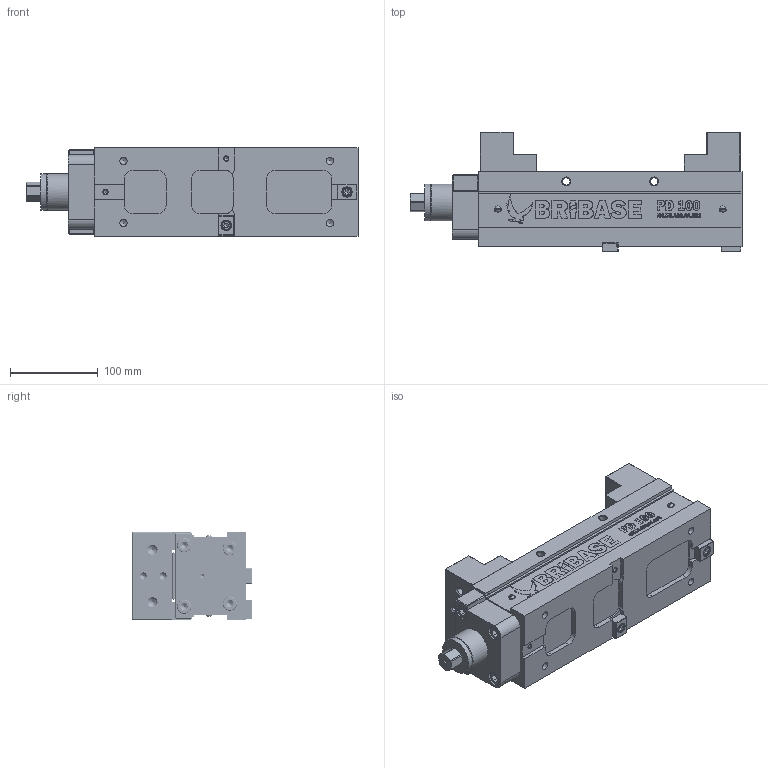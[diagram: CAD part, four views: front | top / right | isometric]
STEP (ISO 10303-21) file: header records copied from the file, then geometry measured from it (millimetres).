
FILE_DESCRIPTION(('STEP AP214'), '1');
FILE_NAME('BB.VS.100.11.003 捘', '', ('UNSPECIFIED'), ('UNSPECIFIED'), 'ASCON STEP Converter 1.6', 'ASCON Math Kernel', '');
FILE_SCHEMA(('AUTOMOTIVE_DESIGN { 1 0 10303 214 3 1 1}'));
Length unit declared in the file: millimetre
Products named in the file (17): BB.VS.100.11.003 捘; BB.VS.100.11.003/001; BB.VS.100.11.003/005; BB.VS.100.11.001/004; BB.VS.100.11.003/003; BB.VS.100.11.001/002; BB.VS.100.21.030/002; BB.VS.100.82.018; BB.VS.100.11.003/008; BB.VS.100.11.003-099; bribase
Assembly tree (32 placements, depth 3):
  BB.VS.100.11.003 捘
    BB.VS.100.11.003/001
    BB.VS.100.11.003/005
    BB.VS.100.11.001/004
    BB.VS.100.11.003/003
    BB.VS.100.11.001/002
    BB.VS.100.11.003/003
    (unnamed)  x2
    (unnamed)  x6
    BB.VS.100.21.030/002  x2
    (unnamed)  x4
    BB.VS.100.82.018  x2
    (unnamed)  x2
    BB.VS.100.11.003/008
    BB.VS.100.11.003-099  x2
      bribase
    (unnamed)  x4
Bounding box: 378 x 136 x 101 mm (x, y, z)
Volume: 2588608.9 mm3; surface area: 540573.8 mm2
Topology: 31 solids, 34 shells, 3069 faces, 9432 edges, 6578 vertices
Faces by surface type: cylinder 1730, plane 1032, cone 133, extrusion 132, torus 36, sphere 4, bspline 2
Full cylindrical faces by diameter (mm): 3.3 x4, 4 x4, 4.2 x1, 4.917 x8, 5 x5, 6 x4, 6.5 x1, 6.6 x2, 7 x4, 8 x4, 8.376 x8, 8.5 x16, 10 x14, 11 x14, 16 x12, 17 x4, 18 x8, 21 x2, 25 x1, 26 x3, 42 x11, 44.5 x4, 47 x2
Entity records: 198845 total; most frequent: CARTESIAN_POINT 132894, ORIENTED_EDGE 11600, DIRECTION 9136, EDGE_CURVE 5800, VERTEX_POINT 4307, AXIS2_PLACEMENT_3D 3411, VECTOR 2314, LINE 2248
